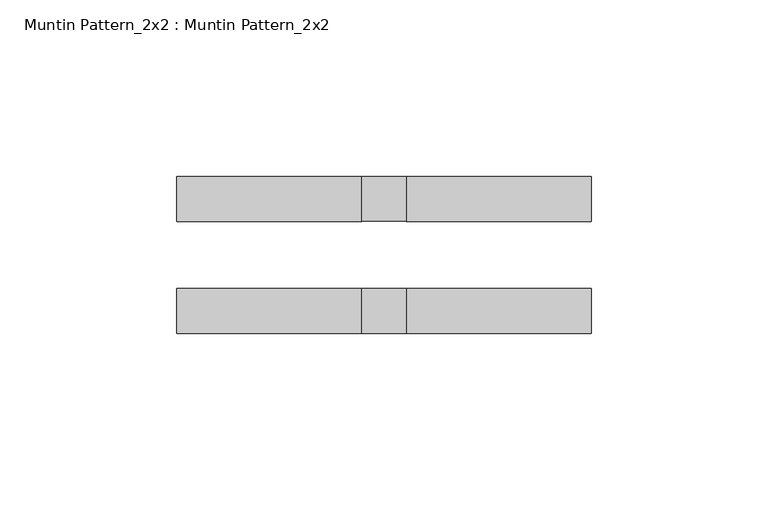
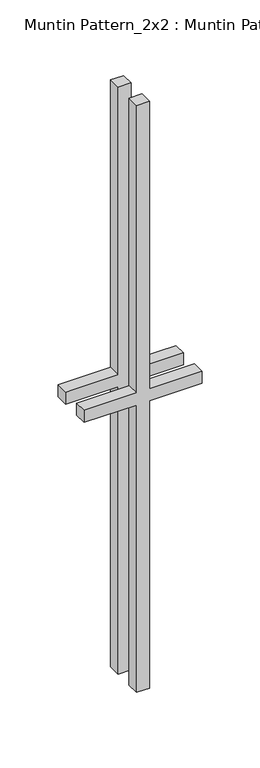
"""IFC4 building model written with IfcOpenShell, lengths in millimetres: proxy geometry, Muntin Pattern_2x2 : Muntin Pattern_2x2."""

from ifc_helpers import new_model, si_unit, frame, origin, place, context, project, spatial, polyline, outline, extrude, source, transform, mapped, element, save


def muntin_pattern_2x2_muntin_pattern_2x2_a2b2235a(model_context):
    return source(origin(), model_context, "Body", "SweptSolid", [
        extrude(outline(polyline([(314.325, -6.35), (314.325, -58.7375), (301.625, -58.7375), (301.625, -6.35), (0.0, -6.35), (0.0, 6.35), (301.625, 6.35), (301.625, 58.7375), (314.325, 58.7375), (314.325, 6.35), (615.95, 6.35), (615.95, -6.35), (314.325, -6.35)])), frame((0.0, 9.525, 0.0), z_axis=(0.0, 1.0, 0.0), x_axis=(0.0, 0.0, 1.0)), (0.0, 0.0, 1.0), 12.7),
        extrude(outline(polyline([(314.325, -6.35), (314.325, -58.7375), (301.625, -58.7375), (301.625, -6.35), (0.0, -6.35), (0.0, 6.35), (301.625, 6.35), (301.625, 58.7375), (314.325, 58.7375), (314.325, 6.35), (615.95, 6.35), (615.95, -6.35), (314.325, -6.35)])), frame((0.0, -22.225, 0.0), z_axis=(0.0, 1.0, 0.0), x_axis=(0.0, 0.0, 1.0)), (0.0, 0.0, 1.0), 12.7),
    ])


if __name__ == "__main__":
    model = new_model("IFC4")
    model_context = context("Model", 3, world=origin())
    ifc_project = project(units=[si_unit("LENGTHUNIT", "METRE", prefix="MILLI")], contexts=[model_context])
    site = spatial("IfcSite", under=ifc_project)
    building = spatial("IfcBuilding", under=site)
    placement = place(None, origin())
    muntin_pattern_2x2_muntin_pattern_2x2_shape = muntin_pattern_2x2_muntin_pattern_2x2_a2b2235a(model_context)
    element("IfcBuildingElementProxy", 1, Name="Muntin Pattern_2x2 : Muntin Pattern_2x2", ObjectType="Muntin Pattern_2x2 : Muntin Pattern_2x2", at=placement, inside=building, context=model_context, shape_type="MappedRepresentation", body=[
        mapped(muntin_pattern_2x2_muntin_pattern_2x2_shape, transform((0.0, 0.0, 0.0), x_axis=(1.0, 0.0, 0.0), y_axis=(0.0, 1.0, 0.0), z_axis=(0.0, 0.0, 1.0))),
    ])
    save(model, "model.ifc")
